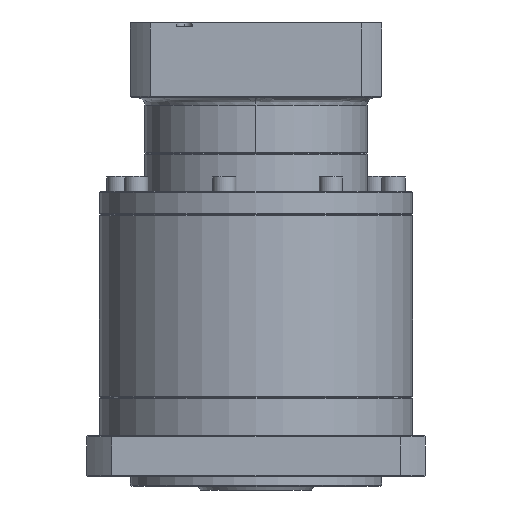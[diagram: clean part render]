
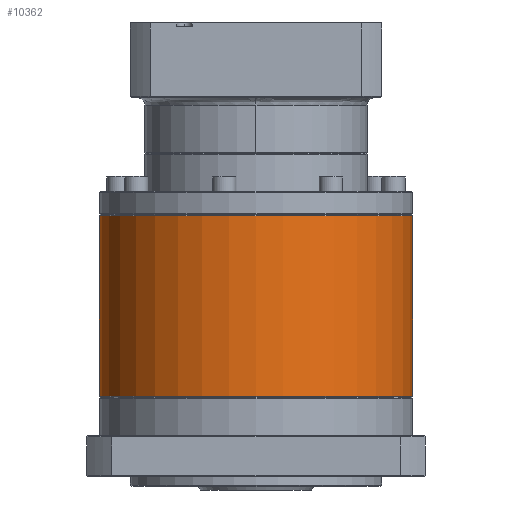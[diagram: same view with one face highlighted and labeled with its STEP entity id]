
A CAD part, front view. The second image highlights one B-rep face of the part: STEP entity #10362.
In plain terms, the highlighted cylindrical face has radius 81 mm (diameter 162 mm), a partial arc.
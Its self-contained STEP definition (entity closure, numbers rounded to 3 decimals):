
#4512 = EDGE_CURVE ( 'NONE', #61182, #84706, #57072, .T. ) ;
#9115 = CARTESIAN_POINT ( 'NONE',  ( -47.718, 114.142, -98.792 ) ) ;
#9882 = EDGE_CURVE ( 'NONE', #84706, #97689, #54868, .T. ) ;
#10362 = ADVANCED_FACE ( 'NONE', ( #70765 ), #64349, .T. ) ;
#11849 = ORIENTED_EDGE ( 'NONE', *, *, #89338, .T. ) ;
#12225 = CARTESIAN_POINT ( 'NONE',  ( -128.718, 114.142, -98.792 ) ) ;
#44006 = ORIENTED_EDGE ( 'NONE', *, *, #9882, .T. ) ;
#44501 = DIRECTION ( 'NONE',  ( -1., 0., 0. ) ) ;
#45829 = AXIS2_PLACEMENT_3D ( 'NONE', #131354, #77870, #44501 ) ;
#45886 = AXIS2_PLACEMENT_3D ( 'NONE', #12225, #55747, #97098 ) ;
#47533 = CARTESIAN_POINT ( 'NONE',  ( -209.718, 114.142, -99.292 ) ) ;
#52145 = EDGE_CURVE ( 'NONE', #61182, #90936, #105168, .T. ) ;
#53741 = ORIENTED_EDGE ( 'NONE', *, *, #4512, .T. ) ;
#54868 = LINE ( 'NONE', #120714, #91816 ) ;
#55747 = DIRECTION ( 'NONE',  ( 0., 0., -1. ) ) ;
#57072 = CIRCLE ( 'NONE', #72039, 81. ) ;
#61182 = VERTEX_POINT ( 'NONE', #67416 ) ;
#64349 = CYLINDRICAL_SURFACE ( 'NONE', #45886, 81. ) ;
#65062 = DIRECTION ( 'NONE',  ( 0., 0., -1. ) ) ;
#67416 = CARTESIAN_POINT ( 'NONE',  ( -47.718, 114.142, -99.292 ) ) ;
#70765 = FACE_OUTER_BOUND ( 'NONE', #83119, .T. ) ;
#72039 = AXIS2_PLACEMENT_3D ( 'NONE', #118546, #65062, #127992 ) ;
#77870 = DIRECTION ( 'NONE',  ( 0., 0., 1. ) ) ;
#83119 = EDGE_LOOP ( 'NONE', ( #127638, #53741, #44006, #11849 ) ) ;
#84706 = VERTEX_POINT ( 'NONE', #47533 ) ;
#89338 = EDGE_CURVE ( 'NONE', #97689, #90936, #116878, .T. ) ;
#90936 = VERTEX_POINT ( 'NONE', #131835 ) ;
#91816 = VECTOR ( 'NONE', #98626, 1000. ) ;
#97098 = DIRECTION ( 'NONE',  ( -1., 0., 0. ) ) ;
#97689 = VERTEX_POINT ( 'NONE', #112996 ) ;
#98626 = DIRECTION ( 'NONE',  ( 0., 0., -1. ) ) ;
#105168 = LINE ( 'NONE', #9115, #113500 ) ;
#112996 = CARTESIAN_POINT ( 'NONE',  ( -209.718, 114.142, -192.792 ) ) ;
#113500 = VECTOR ( 'NONE', #116032, 1000. ) ;
#116032 = DIRECTION ( 'NONE',  ( 0., 0., -1. ) ) ;
#116878 = CIRCLE ( 'NONE', #45829, 81. ) ;
#118546 = CARTESIAN_POINT ( 'NONE',  ( -128.718, 114.142, -99.292 ) ) ;
#120714 = CARTESIAN_POINT ( 'NONE',  ( -209.718, 114.142, -98.792 ) ) ;
#127638 = ORIENTED_EDGE ( 'NONE', *, *, #52145, .F. ) ;
#127992 = DIRECTION ( 'NONE',  ( -1., 0., 0. ) ) ;
#131354 = CARTESIAN_POINT ( 'NONE',  ( -128.718, 114.142, -192.792 ) ) ;
#131835 = CARTESIAN_POINT ( 'NONE',  ( -47.718, 114.142, -192.792 ) ) ;
